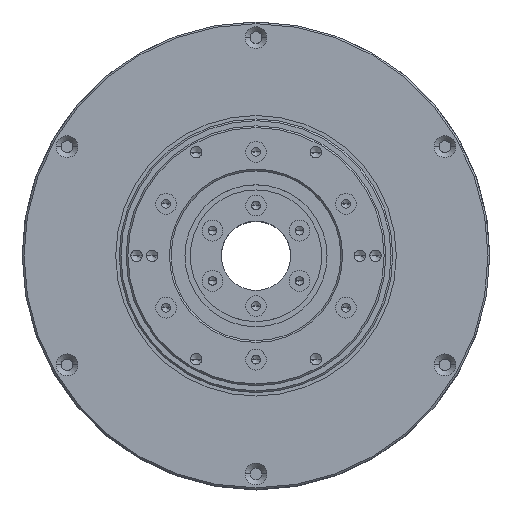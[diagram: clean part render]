
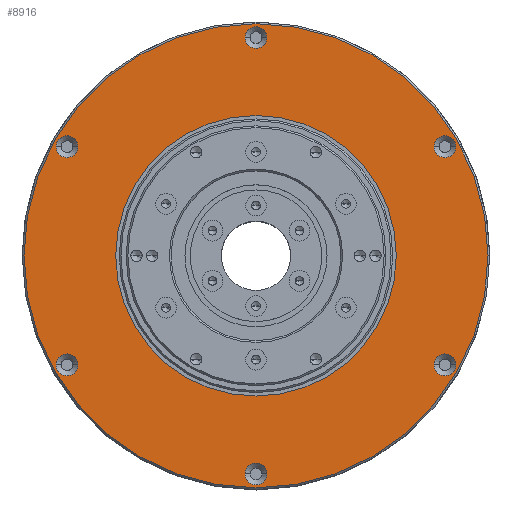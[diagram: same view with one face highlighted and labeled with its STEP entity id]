
A CAD part, top view. The second image highlights one B-rep face of the part: STEP entity #8916.
In plain terms, the highlighted planar face has unit normal (0, 0, 1).
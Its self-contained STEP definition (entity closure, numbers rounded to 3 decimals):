
#8391=CARTESIAN_POINT('',(0.,0.,48.5));
#8392=DIRECTION('',(0.,0.,1.));
#8393=DIRECTION('',(-1.,0.,0.));
#8394=AXIS2_PLACEMENT_3D('',#8391,#8392,#8393);
#8396=CARTESIAN_POINT('',(0.,0.,48.5));
#8397=DIRECTION('',(0.,0.,1.));
#8398=DIRECTION('',(1.,0.,0.));
#8399=AXIS2_PLACEMENT_3D('',#8396,#8397,#8398);
#8401=CARTESIAN_POINT('',(0.,63.,48.5));
#8402=DIRECTION('',(0.,0.,-1.));
#8403=DIRECTION('',(1.,0.,0.));
#8404=AXIS2_PLACEMENT_3D('',#8401,#8402,#8403);
#8406=CARTESIAN_POINT('',(0.,63.,48.5));
#8407=DIRECTION('',(0.,0.,-1.));
#8408=DIRECTION('',(-1.,0.,0.));
#8409=AXIS2_PLACEMENT_3D('',#8406,#8407,#8408);
#8411=CARTESIAN_POINT('',(54.56,31.5,48.5));
#8412=DIRECTION('',(0.,0.,-1.));
#8413=DIRECTION('',(1.,0.,0.));
#8414=AXIS2_PLACEMENT_3D('',#8411,#8412,#8413);
#8416=CARTESIAN_POINT('',(54.56,31.5,48.5));
#8417=DIRECTION('',(0.,0.,-1.));
#8418=DIRECTION('',(-1.,0.,0.));
#8419=AXIS2_PLACEMENT_3D('',#8416,#8417,#8418);
#8421=CARTESIAN_POINT('',(-54.56,31.5,48.5));
#8422=DIRECTION('',(0.,0.,-1.));
#8423=DIRECTION('',(1.,0.,0.));
#8424=AXIS2_PLACEMENT_3D('',#8421,#8422,#8423);
#8426=CARTESIAN_POINT('',(-54.56,31.5,48.5));
#8427=DIRECTION('',(0.,0.,-1.));
#8428=DIRECTION('',(-1.,0.,0.));
#8429=AXIS2_PLACEMENT_3D('',#8426,#8427,#8428);
#8431=CARTESIAN_POINT('',(-54.56,-31.5,48.5));
#8432=DIRECTION('',(0.,0.,-1.));
#8433=DIRECTION('',(1.,0.,0.));
#8434=AXIS2_PLACEMENT_3D('',#8431,#8432,#8433);
#8436=CARTESIAN_POINT('',(-54.56,-31.5,48.5));
#8437=DIRECTION('',(0.,0.,-1.));
#8438=DIRECTION('',(-1.,0.,0.));
#8439=AXIS2_PLACEMENT_3D('',#8436,#8437,#8438);
#8441=CARTESIAN_POINT('',(54.56,-31.5,48.5));
#8442=DIRECTION('',(0.,0.,-1.));
#8443=DIRECTION('',(1.,0.,0.));
#8444=AXIS2_PLACEMENT_3D('',#8441,#8442,#8443);
#8446=CARTESIAN_POINT('',(54.56,-31.5,48.5));
#8447=DIRECTION('',(0.,0.,-1.));
#8448=DIRECTION('',(-1.,0.,0.));
#8449=AXIS2_PLACEMENT_3D('',#8446,#8447,#8448);
#8451=CARTESIAN_POINT('',(0.,-63.,48.5));
#8452=DIRECTION('',(0.,0.,-1.));
#8453=DIRECTION('',(1.,0.,0.));
#8454=AXIS2_PLACEMENT_3D('',#8451,#8452,#8453);
#8456=CARTESIAN_POINT('',(0.,-63.,48.5));
#8457=DIRECTION('',(0.,0.,-1.));
#8458=DIRECTION('',(-1.,0.,0.));
#8459=AXIS2_PLACEMENT_3D('',#8456,#8457,#8458);
#8461=CARTESIAN_POINT('',(0.,0.,48.5));
#8462=DIRECTION('',(0.,0.,-1.));
#8463=DIRECTION('',(-1.,0.,0.));
#8464=AXIS2_PLACEMENT_3D('',#8461,#8462,#8463);
#8466=CARTESIAN_POINT('',(0.,0.,48.5));
#8467=DIRECTION('',(0.,0.,-1.));
#8468=DIRECTION('',(1.,0.,0.));
#8469=AXIS2_PLACEMENT_3D('',#8466,#8467,#8468);
#8709=CARTESIAN_POINT('',(-40.5,0.,48.5));
#8710=VERTEX_POINT('',#8709);
#8711=CARTESIAN_POINT('',(40.5,0.,48.5));
#8712=VERTEX_POINT('',#8711);
#8713=CARTESIAN_POINT('',(-3.15,-63.,48.5));
#8714=CARTESIAN_POINT('',(3.15,-63.,48.5));
#8715=VERTEX_POINT('',#8713);
#8716=VERTEX_POINT('',#8714);
#8717=CARTESIAN_POINT('',(51.41,-31.5,48.5));
#8718=CARTESIAN_POINT('',(57.71,-31.5,48.5));
#8719=VERTEX_POINT('',#8717);
#8720=VERTEX_POINT('',#8718);
#8721=CARTESIAN_POINT('',(-57.71,-31.5,48.5));
#8722=CARTESIAN_POINT('',(-51.41,-31.5,48.5));
#8723=VERTEX_POINT('',#8721);
#8724=VERTEX_POINT('',#8722);
#8725=CARTESIAN_POINT('',(-57.71,31.5,48.5));
#8726=CARTESIAN_POINT('',(-51.41,31.5,48.5));
#8727=VERTEX_POINT('',#8725);
#8728=VERTEX_POINT('',#8726);
#8729=CARTESIAN_POINT('',(51.41,31.5,48.5));
#8730=CARTESIAN_POINT('',(57.71,31.5,48.5));
#8731=VERTEX_POINT('',#8729);
#8732=VERTEX_POINT('',#8730);
#8789=CARTESIAN_POINT('',(-67.,0.,48.5));
#8790=CARTESIAN_POINT('',(67.,0.,48.5));
#8791=VERTEX_POINT('',#8789);
#8792=VERTEX_POINT('',#8790);
#8793=CARTESIAN_POINT('',(3.15,63.,48.5));
#8794=VERTEX_POINT('',#8793);
#8795=CARTESIAN_POINT('',(-3.15,63.,48.5));
#8796=VERTEX_POINT('',#8795);
#8865=CARTESIAN_POINT('',(0.,33.75,48.5));
#8866=DIRECTION('',(0.,0.,-1.));
#8867=DIRECTION('',(-1.,0.,0.));
#8868=AXIS2_PLACEMENT_3D('',#8865,#8866,#8867);
#8869=PLANE('',#8868);
#8871=ORIENTED_EDGE('',*,*,#8870,.F.);
#8873=ORIENTED_EDGE('',*,*,#8872,.F.);
#8874=EDGE_LOOP('',(#8871,#8873));
#8875=FACE_OUTER_BOUND('',#8874,.F.);
#8877=ORIENTED_EDGE('',*,*,#8876,.F.);
#8879=ORIENTED_EDGE('',*,*,#8878,.F.);
#8880=EDGE_LOOP('',(#8877,#8879));
#8881=FACE_BOUND('',#8880,.F.);
#8883=ORIENTED_EDGE('',*,*,#8882,.F.);
#8885=ORIENTED_EDGE('',*,*,#8884,.F.);
#8886=EDGE_LOOP('',(#8883,#8885));
#8887=FACE_BOUND('',#8886,.F.);
#8889=ORIENTED_EDGE('',*,*,#8888,.F.);
#8891=ORIENTED_EDGE('',*,*,#8890,.F.);
#8892=EDGE_LOOP('',(#8889,#8891));
#8893=FACE_BOUND('',#8892,.F.);
#8895=ORIENTED_EDGE('',*,*,#8894,.F.);
#8897=ORIENTED_EDGE('',*,*,#8896,.F.);
#8898=EDGE_LOOP('',(#8895,#8897));
#8899=FACE_BOUND('',#8898,.F.);
#8901=ORIENTED_EDGE('',*,*,#8900,.F.);
#8903=ORIENTED_EDGE('',*,*,#8902,.F.);
#8904=EDGE_LOOP('',(#8901,#8903));
#8905=FACE_BOUND('',#8904,.F.);
#8906=ORIENTED_EDGE('',*,*,#8821,.F.);
#8907=ORIENTED_EDGE('',*,*,#8804,.F.);
#8908=EDGE_LOOP('',(#8906,#8907));
#8909=FACE_BOUND('',#8908,.F.);
#8911=ORIENTED_EDGE('',*,*,#8910,.F.);
#8913=ORIENTED_EDGE('',*,*,#8912,.F.);
#8914=EDGE_LOOP('',(#8911,#8913));
#8915=FACE_BOUND('',#8914,.F.);
#8916=ADVANCED_FACE('',(#8875,#8881,#8887,#8893,#8899,#8905,#8909,#8915),#8869,
.F.);
#8395=CIRCLE('',#8394,67.);
#8400=CIRCLE('',#8399,67.);
#8405=CIRCLE('',#8404,3.15);
#8410=CIRCLE('',#8409,3.15);
#8415=CIRCLE('',#8414,3.15);
#8420=CIRCLE('',#8419,3.15);
#8425=CIRCLE('',#8424,3.15);
#8430=CIRCLE('',#8429,3.15);
#8435=CIRCLE('',#8434,3.15);
#8440=CIRCLE('',#8439,3.15);
#8445=CIRCLE('',#8444,3.15);
#8450=CIRCLE('',#8449,3.15);
#8455=CIRCLE('',#8454,3.15);
#8460=CIRCLE('',#8459,3.15);
#8465=CIRCLE('',#8464,40.5);
#8470=CIRCLE('',#8469,40.5);
#8804=EDGE_CURVE('',#8715,#8716,#8460,.T.);
#8821=EDGE_CURVE('',#8716,#8715,#8455,.T.);
#8870=EDGE_CURVE('',#8791,#8792,#8395,.T.);
#8872=EDGE_CURVE('',#8792,#8791,#8400,.T.);
#8876=EDGE_CURVE('',#8794,#8796,#8405,.T.);
#8878=EDGE_CURVE('',#8796,#8794,#8410,.T.);
#8882=EDGE_CURVE('',#8732,#8731,#8415,.T.);
#8884=EDGE_CURVE('',#8731,#8732,#8420,.T.);
#8888=EDGE_CURVE('',#8728,#8727,#8425,.T.);
#8890=EDGE_CURVE('',#8727,#8728,#8430,.T.);
#8894=EDGE_CURVE('',#8724,#8723,#8435,.T.);
#8896=EDGE_CURVE('',#8723,#8724,#8440,.T.);
#8900=EDGE_CURVE('',#8720,#8719,#8445,.T.);
#8902=EDGE_CURVE('',#8719,#8720,#8450,.T.);
#8910=EDGE_CURVE('',#8710,#8712,#8465,.T.);
#8912=EDGE_CURVE('',#8712,#8710,#8470,.T.);
